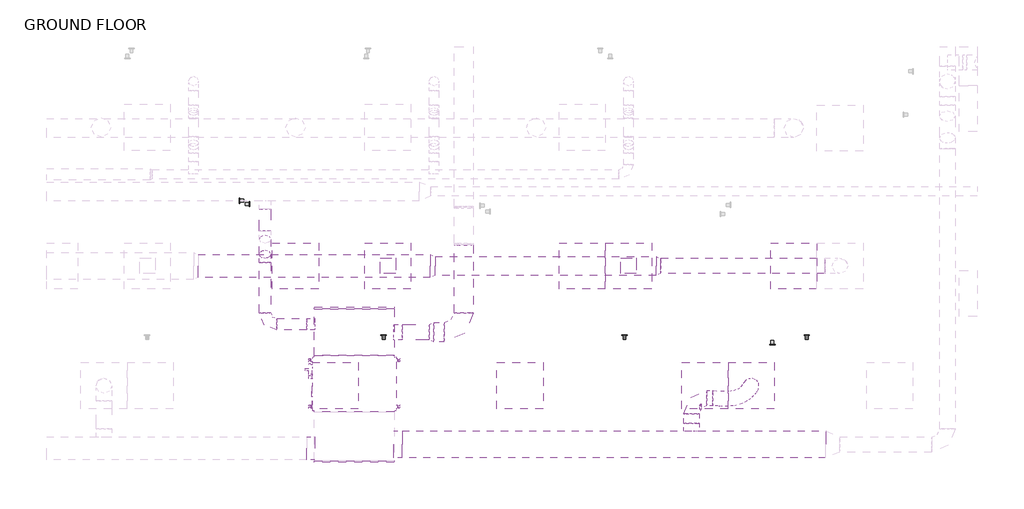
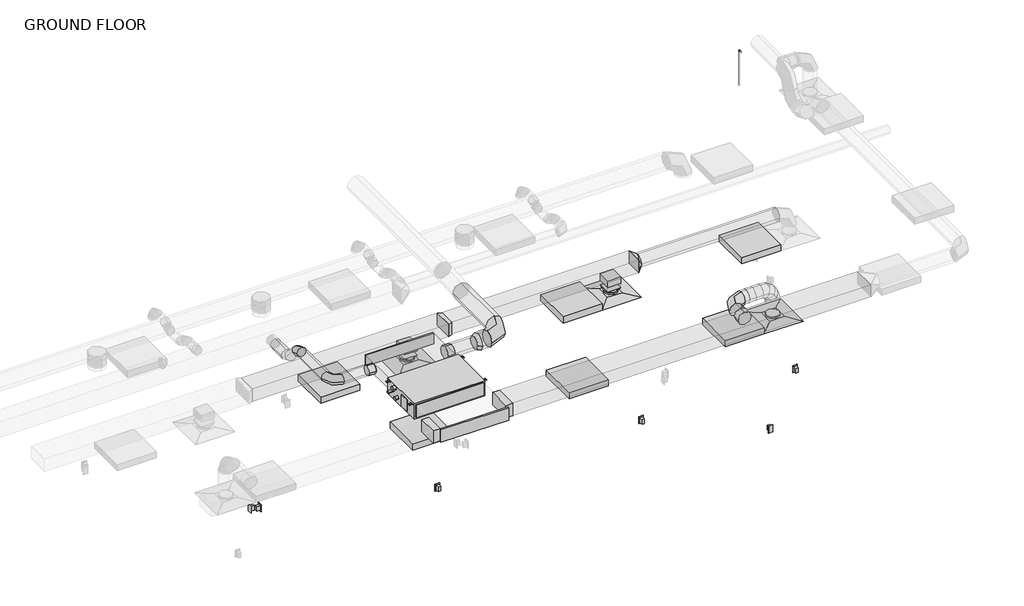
# One storey, part 4 of 20: 18 duct fittings, 17 duct segments, 6 light fixtures, 4 proxies, 3 air terminals, 3 switching devices, 2 pipe segments, 1 pipe fitting.
"""IFC4 building model written with IfcOpenShell, lengths in millimetres."""

from ifc_helpers import new_model, si_unit, point, frame, frame_2d, origin, place, context, project, spatial, polyline, circle_curve, ellipse_curve, trimmed, segment, composite_curve, outline, extrude, transform, mapped, element, save
from ifc_brep_helpers import plane_surface, cylinder_surface, advanced_brep
from components import air_terminal_e9020785, mechanical_equipment_d42a0ae8, duplex_receptacle_countertop_10251bba, rectangular_endcap_standard_76476d20, rectangular_endcap_standard_db7dad01, rectangular_takeoff_standard_806da19c, rectangular_takeoff_standard_78a7ba75, rectangular_takeoff_standard_d07ea574, rectangular_transition_angle_45_degree_1d311e81, rectangular_to_round_transition_angle_45_degree_e9430680, rectangular_to_round_transition_angle_45_degree_5a025447, round_elbow_1_d_a253342a, round_elbow_1_d_b37ad80b, round_elbow_1_d_6fec3262, round_elbow_1_d_9a27e954, round_takeoff_standard_d3b0d0f9, round_takeoff_standard_1127d77f, round_takeoff_standard_bb6ed057, round_transition_angle_45_degree_6c335ea7, troffer_corner_insert_2x2_3lamp_e67c7f8f, elbow_generic_standard_a088f956

model = new_model("IFC4")

# Units and contexts
model_context = context("Model", 3, world=origin())
ifc_project = project(units=[si_unit("LENGTHUNIT", "METRE", prefix="MILLI")], contexts=[model_context])

# Site, building, storey
site = spatial("IfcSite", under=ifc_project)
building = spatial("IfcBuilding", under=site)
storey = spatial("IfcBuildingStorey", under=building, Name="GROUND FLOOR", Elevation=30480.0)

# Air terminals
placement = place(None, origin())
air_terminal_shape = air_terminal_e9020785(model_context)
element("IfcAirTerminal", 1, ObjectType="Supply Diffuser - Rectangular Face Round Neck - Hosted : 24\"x24\" Face 8\" Neck - Hosted", at=placement, inside=storey, context=model_context, shape_type="MappedRepresentation", body=[
    mapped(air_terminal_shape, transform((2372.6795393, -4228.1054995, 33223.2), x_axis=(0.0, -1.0, 0.0), y_axis=(-1.0, 0.0, 0.0), z_axis=(0.0, 0.0, -1.0))),
])
element("IfcAirTerminal", 2, ObjectType="Supply Diffuser - Rectangular Face Round Neck - Hosted : 24\"x24\" Face 8\" Neck - Hosted", at=placement, inside=storey, context=model_context, shape_type="MappedRepresentation", body=[
    mapped(air_terminal_shape, transform((5547.6681472, -4228.1054995, 33223.2), x_axis=(0.0, -1.0, 0.0), y_axis=(-1.0, 0.0, 0.0), z_axis=(0.0, 0.0, -1.0))),
])
element("IfcAirTerminal", 3, ObjectType="Supply Diffuser - Rectangular Face Round Neck - Hosted : 24\"x24\" Face 8\" Neck - Hosted", at=placement, inside=storey, context=model_context, shape_type="MappedRepresentation", body=[
    mapped(air_terminal_shape, transform((7163.7545393, -5809.2554995, 33223.2), x_axis=(0.0, -1.0, 0.0), y_axis=(-1.0, 0.0, 0.0), z_axis=(0.0, 0.0, -1.0))),
])

# Proxies
mechanical_equipment_shape = mechanical_equipment_d42a0ae8(model_context)
element("IfcBuildingElementProxy", 4, Name="PEFY-P-NMAU-E_Medium_Static_Ducted : PEFY-P30NMAU-E", ObjectType="PEFY-P-NMAU-E_Medium_Static_Ducted : PEFY-P30NMAU-E", at=placement, inside=storey, context=model_context, shape_type="MappedRepresentation", body=[
    mapped(mechanical_equipment_shape, transform((1920.9522105, -5724.0600038, 33731.2), x_axis=(-1.0, 0.0, 0.0), y_axis=(0.0, -1.0, 0.0), z_axis=(0.0, 0.0, 1.0))),
])
duplex_receptacle_countertop_shape = duplex_receptacle_countertop_10251bba(model_context)
element("IfcBuildingElementProxy", 5, Name="Duplex Receptacle : Standard", ObjectType="Duplex Receptacle : Standard", at=placement, inside=storey, context=model_context, shape_type="MappedRepresentation", body=[
    mapped(duplex_receptacle_countertop_shape, transform((420.0545393, -3366.5857363, 30937.2), x_axis=(0.0, -1.0, 0.0), y_axis=(0.0, 0.0, 1.0), z_axis=(-1.0, 0.0, 0.0))),
])
element("IfcBuildingElementProxy", 6, Name="Duplex Receptacle : Standard", ObjectType="Duplex Receptacle : Standard", at=placement, inside=storey, context=model_context, shape_type="MappedRepresentation", body=[
    mapped(duplex_receptacle_countertop_shape, transform((543.8795393, -3410.6637519, 30937.2), x_axis=(0.0, 1.0, 0.0), y_axis=(0.0, 0.0, 1.0), z_axis=(1.0, 0.0, 0.0))),
])
element("IfcBuildingElementProxy", 7, Name="Duplex Receptacle : Standard", ObjectType="Duplex Receptacle : Standard", at=placement, inside=storey, context=model_context, shape_type="MappedRepresentation", body=[
    mapped(duplex_receptacle_countertop_shape, transform((7444.6976826, -5266.3304995, 30937.2), x_axis=(1.0, 0.0, 0.0), y_axis=(0.0, 0.0, 1.0), z_axis=(0.0, -1.0, 0.0))),
])

# Duct fittings
rectangular_endcap_standard_shape = rectangular_endcap_standard_76476d20(model_context)
element("IfcDuctFitting", 8, ObjectType="Rectangular Endcap : Standard", at=placement, inside=storey, context=model_context, shape_type="MappedRepresentation", body=[
    mapped(rectangular_endcap_standard_shape, transform((1930.9644534, -4796.9600038, 33890.74375), x_axis=(0.0, 1.0, 0.0), y_axis=(-1.0, 0.0, 0.0), z_axis=(0.0, 0.0, 1.0))),
])
rectangular_endcap_standard_2_shape = rectangular_endcap_standard_db7dad01(model_context)
element("IfcDuctFitting", 9, ObjectType="Rectangular Endcap : Standard", at=placement, inside=storey, context=model_context, shape_type="MappedRepresentation", body=[
    mapped(rectangular_endcap_standard_2_shape, transform((1930.9644534, -6797.459162, 33877.25), x_axis=(0.0, -1.0, 0.0), y_axis=(0.0, 0.0, -1.0000000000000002), z_axis=(1.0000000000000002, 0.0, 0.0))),
])
rectangular_takeoff_standard_shape = rectangular_takeoff_standard_806da19c(model_context)
element("IfcDuctFitting", 10, ObjectType="Rectangular Takeoff : Standard", at=placement, inside=storey, context=model_context, shape_type="MappedRepresentation", body=[
    mapped(rectangular_takeoff_standard_shape, transform((2458.8082034, -6584.4850038, 33877.25), x_axis=(1.0, 0.0, 0.0), y_axis=(0.0, -1.0, 0.0), z_axis=(0.0, 0.0, -1.0))),
])
rectangular_takeoff_standard_2_shape = rectangular_takeoff_standard_78a7ba75(model_context)
element("IfcDuctFitting", 11, ObjectType="Rectangular Takeoff : Standard", at=placement, inside=storey, context=model_context, shape_type="MappedRepresentation", body=[
    mapped(rectangular_takeoff_standard_2_shape, transform((1403.1207034, -6635.2850038, 33877.25), x_axis=(-1.0, 0.0, 0.0), y_axis=(0.0, 1.0, 0.0), z_axis=(0.0, 0.0, -1.0))),
])
rectangular_takeoff_standard_3_shape = rectangular_takeoff_standard_d07ea574(model_context)
element("IfcDuctFitting", 12, ObjectType="Rectangular Takeoff : Standard", at=placement, inside=storey, context=model_context, shape_type="MappedRepresentation", body=[
    mapped(rectangular_takeoff_standard_3_shape, transform((5547.6681472, -4228.1054995, 33502.6), x_axis=(0.0, 0.0, -1.0), y_axis=(1.0, 0.0, 0.0), z_axis=(0.0, -1.0, 0.0))),
])
element("IfcDuctFitting", 13, ObjectType="Rectangular Takeoff : Standard", at=placement, inside=storey, context=model_context, shape_type="MappedRepresentation", body=[
    mapped(rectangular_takeoff_standard_3_shape, transform((2372.6795393, -4228.1054995, 33502.6), x_axis=(0.0, 0.0, -1.0), y_axis=(1.0, 0.0, 0.0), z_axis=(0.0, -1.0, 0.0))),
])
rectangular_transition_angle_45_degree_shape = rectangular_transition_angle_45_degree_1d311e81(model_context)
element("IfcDuctFitting", 14, ObjectType="Rectangular Transition - Angle : 45 Degree", at=placement, inside=storey, context=model_context, shape_type="MappedRepresentation", body=[
    mapped(rectangular_transition_angle_45_degree_shape, transform((2934.6545393, -4228.1054995, 33604.2), x_axis=(1.0, 0.0, 0.0), y_axis=(0.0, 1.0, 0.0), z_axis=(0.0, 0.0, 1.0))),
])
rectangular_to_round_transition_angle_45_degree_shape = rectangular_to_round_transition_angle_45_degree_e9430680(model_context)
element("IfcDuctFitting", 15, ObjectType="Rectangular to Round Transition - Angle : 45 Degree", at=placement, inside=storey, context=model_context, shape_type="MappedRepresentation", body=[
    mapped(rectangular_to_round_transition_angle_45_degree_shape, transform((5910.8124903, -4228.1054995, 33604.2), x_axis=(1.0, 0.0, 0.0), y_axis=(0.0, 1.0, 0.0), z_axis=(0.0, 0.0, 1.0))),
])
rectangular_to_round_transition_angle_45_degree_2_shape = rectangular_to_round_transition_angle_45_degree_5a025447(model_context)
element("IfcDuctFitting", 16, ObjectType="Rectangular to Round Transition - Angle : 45 Degree", at=placement, inside=storey, context=model_context, shape_type="MappedRepresentation", body=[
    mapped(rectangular_to_round_transition_angle_45_degree_2_shape, transform((5547.6681472, -4228.1054995, 33327.975), x_axis=(0.0, 0.0, -1.0), y_axis=(1.0, 0.0, 0.0), z_axis=(0.0, -1.0, 0.0))),
])
element("IfcDuctFitting", 17, ObjectType="Rectangular to Round Transition - Angle : 45 Degree", at=placement, inside=storey, context=model_context, shape_type="MappedRepresentation", body=[
    mapped(rectangular_to_round_transition_angle_45_degree_2_shape, transform((2372.6795393, -4228.1054995, 33327.975), x_axis=(0.0, 0.0, -1.0), y_axis=(1.0, 0.0, 0.0), z_axis=(0.0, -1.0, 0.0))),
])
round_elbow_1_d_shape = round_elbow_1_d_a253342a(model_context)
element("IfcDuctFitting", 18, ObjectType="Round Elbow : 1 D", at=placement, inside=storey, context=model_context, shape_type="MappedRepresentation", body=[
    mapped(round_elbow_1_d_shape, transform((6377.6154749, -5974.8850038, 33832.8), x_axis=(-1.0, 0.0, 0.0), y_axis=(0.0, -1.0, 0.0), z_axis=(0.0, 0.0, 1.0))),
])
round_elbow_1_d_2_shape = round_elbow_1_d_b37ad80b(model_context)
element("IfcDuctFitting", 19, ObjectType="Round Elbow : 1 D", at=placement, inside=storey, context=model_context, shape_type="MappedRepresentation", body=[
    mapped(round_elbow_1_d_2_shape, transform((752.8182219, -4998.2216457, 33890.74375), x_axis=(0.0, -1.0, 0.0), y_axis=(1.0, 0.0, 0.0), z_axis=(0.0, 0.0, 1.0))),
])
round_elbow_1_d_3_shape = round_elbow_1_d_6fec3262(model_context)
element("IfcDuctFitting", 20, ObjectType="Round Elbow : 1 D", at=placement, inside=storey, context=model_context, shape_type="MappedRepresentation", body=[
    mapped(round_elbow_1_d_3_shape, transform((3373.2082034, -5101.7600038, 33846.29375), x_axis=(1.0, 0.0, 0.0), y_axis=(0.0, 1.0, 0.0), z_axis=(0.0, 0.0, 1.0))),
])
round_elbow_1_d_4_shape = round_elbow_1_d_9a27e954(model_context)
element("IfcDuctFitting", 21, ObjectType="Round Elbow : 1 D", at=placement, inside=storey, context=model_context, shape_type="MappedRepresentation", body=[
    mapped(round_elbow_1_d_4_shape, transform((752.8182219, -4118.4511555, 33890.74375), x_axis=(0.0, -0.707106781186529, 0.707106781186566), y_axis=(0.0, -0.707106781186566, -0.707106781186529), z_axis=(1.0, 0.0, 0.0))),
])
round_takeoff_standard_shape = round_takeoff_standard_d3b0d0f9(model_context)
element("IfcDuctFitting", 22, ObjectType="Round Takeoff : Standard", at=placement, inside=storey, context=model_context, shape_type="MappedRepresentation", body=[
    mapped(round_takeoff_standard_shape, transform((2458.8082034, -5101.7600038, 33846.29375), x_axis=(1.0, 0.0, 0.0), y_axis=(0.0, -1.0, 0.0), z_axis=(0.0, 0.0, -1.0))),
])
round_takeoff_standard_2_shape = round_takeoff_standard_1127d77f(model_context)
element("IfcDuctFitting", 23, ObjectType="Round Takeoff : Standard", at=placement, inside=storey, context=model_context, shape_type="MappedRepresentation", body=[
    mapped(round_takeoff_standard_2_shape, transform((6377.6154749, -6406.6850038, 33832.8), x_axis=(0.0, 1.0, 0.0), y_axis=(1.0, 0.0, 0.0), z_axis=(0.0, 0.0, -1.0))),
])
round_takeoff_standard_3_shape = round_takeoff_standard_bb6ed057(model_context)
element("IfcDuctFitting", 24, ObjectType="Round Takeoff : Standard", at=placement, inside=storey, context=model_context, shape_type="MappedRepresentation", body=[
    mapped(round_takeoff_standard_3_shape, transform((1403.1207034, -4998.2216457, 33890.74375), x_axis=(-1.0, 0.0, 0.0), y_axis=(0.0, 1.0, 0.0), z_axis=(0.0, 0.0, -1.0))),
])
round_transition_angle_45_degree_shape = round_transition_angle_45_degree_6c335ea7(model_context)
element("IfcDuctFitting", 25, ObjectType="Round Transition - Angle : 45 Degree", at=placement, inside=storey, context=model_context, shape_type="MappedRepresentation", body=[
    mapped(round_transition_angle_45_degree_shape, transform((2916.0082034, -5101.7600038, 33846.29375), x_axis=(1.0, 0.0, 0.0), y_axis=(0.0, 1.0, 0.0), z_axis=(0.0, 0.0, 1.0))),
])

# Duct segments
element("IfcDuctSegment", 26, ObjectType="Flex - Round", at=placement, inside=storey, context=model_context, shape_type="AdvancedBrep", body=[
    advanced_brep(
    [(6657.0154749, -5873.2850038, 33832.8), (6657.0154749, -5974.8850038, 33731.2), (6657.0154749, -6076.4850038, 33832.8), (6657.0154749, -5974.8850038, 33934.4), (6664.1604734, -5873.2850038, 33832.8), (6665.7378942, -5974.8850038, 33731.2), (6661.2728618, -6076.4850038, 33832.8), (6659.6954409, -5974.8850038, 33934.4), (7129.0124065, -5713.7801403, 33277.175), (7259.2298985, -5774.5133667, 33277.175), (7198.4966721, -5904.7308586, 33277.175), (7068.2791801, -5843.9976323, 33277.175), (6761.7393941, -5876.0613465, 33838.6096182), (6764.2748739, -5977.6886054, 33737.0666588), (6757.0979688, -6079.2114465, 33838.5052003), (6754.5624889, -5977.5841875, 33940.0481597), (6856.6277847, -5877.7028295, 33842.044493), (6852.1190413, -5979.2082298, 33740.246539), (6864.8566466, -6081.0755738, 33842.405968), (6869.3653901, -5979.5701735, 33944.203922), (6931.5454276, -5870.2568398, 33826.4432762), (6909.7778917, -5973.4775742, 33728.2393776), (6969.4566581, -6070.6794831, 33820.6235494), (6991.2241939, -5967.4587487, 33918.8274479), (6991.5818588, -5850.531499, 33783.6357716), (6953.2151869, -5959.2059823, 33697.2674799), (7053.4419158, -6043.0856073, 33760.7399215), (7091.8085877, -5934.411124, 33847.1082133), (7042.2601994, -5820.1278131, 33712.3335862), (6994.1395219, -5934.654061, 33639.6887492), (7113.2263536, -6007.2188593, 33676.6258598), (7161.3470311, -5892.6926114, 33749.2706968), (7081.4386198, -5784.4954246, 33618.3222411), (7027.690537, -5904.1397424, 33559.1807545), (7154.2398269, -5969.9175083, 33578.2111776), (7207.9879096, -5850.2731906, 33637.3526642), (7108.4914029, -5750.2738045, 33509.6614918), (7051.0725508, -5874.561625, 33465.2640908), (7180.3960787, -5936.8299952, 33473.1514537), (7237.8149309, -5812.5421747, 33517.5488548), (7124.0629565, -5724.2123836, 33393.9600667), (7064.2109738, -5852.5724273, 33367.6415734), (7194.3387271, -5913.4948009, 33369.5532945), (7254.1907099, -5785.1347572, 33395.8717878), (7129.0124065, -5713.7801403, 33291.4495769), (7068.2791801, -5843.9976323, 33283.3829523), (7198.4966721, -5904.7308586, 33283.4360529), (7259.2298985, -5774.5133667, 33291.5026776)],
    [
        (0, 1, circle_curve(frame((6657.0154749, -5974.8850038, 33832.8), z_axis=(-1.0, 0.0, 0.0), x_axis=(0.0, 1.0, 0.0)), 101.6)),
        (1, 2, circle_curve(frame((6657.0154749, -5974.8850038, 33832.8), z_axis=(-1.0, 0.0, 0.0), x_axis=(0.0, 1.0, 0.0)), 101.6)),
        (2, 3, circle_curve(frame((6657.0154749, -5974.8850038, 33832.8), z_axis=(-1.0, 0.0, 0.0), x_axis=(0.0, 1.0, 0.0)), 101.6)),
        (3, 0, circle_curve(frame((6657.0154749, -5974.8850038, 33832.8), z_axis=(-1.0, 0.0, 0.0), x_axis=(0.0, 1.0, 0.0)), 101.6)),
        (0, 4),
        (4, 5, ellipse_curve(frame((6662.7166676, -5974.8850038, 33832.8), z_axis=(-0.9994573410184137, 0.014202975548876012, -0.02972034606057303), x_axis=(-0.032939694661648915, -0.43094716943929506, 0.9017757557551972)), 101.6551641, 101.6)),
        (5, 1),
        (5, 6, ellipse_curve(frame((6662.7166676, -5974.8850038, 33832.8), z_axis=(-0.9994573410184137, 0.014202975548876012, -0.02972034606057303), x_axis=(-0.032939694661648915, -0.43094716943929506, 0.9017757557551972)), 101.6551641, 101.6)),
        (6, 2),
        (6, 7, ellipse_curve(frame((6662.7166676, -5974.8850038, 33832.8), z_axis=(-0.9994573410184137, 0.014202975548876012, -0.02972034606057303), x_axis=(-0.032939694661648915, -0.43094716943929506, 0.9017757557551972)), 101.6551641, 101.6)),
        (7, 3),
        (7, 4, ellipse_curve(frame((6662.7166676, -5974.8850038, 33832.8), z_axis=(-0.9994573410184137, 0.014202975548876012, -0.02972034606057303), x_axis=(-0.032939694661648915, -0.43094716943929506, 0.9017757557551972)), 101.6551641, 101.6)),
        (8, 9, circle_curve(frame((7163.7545393, -5809.2554995, 33277.175), z_axis=(0.0, 0.0, -1.0), x_axis=(-0.3419501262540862, 0.9397181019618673, 0.0)), 101.6)),
        (9, 10, circle_curve(frame((7163.7545393, -5809.2554995, 33277.175), z_axis=(0.0, 0.0, -1.0), x_axis=(-0.3419501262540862, 0.9397181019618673, 0.0)), 101.6)),
        (10, 11, circle_curve(frame((7163.7545393, -5809.2554995, 33277.175), z_axis=(0.0, 0.0, -1.0), x_axis=(-0.3419501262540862, 0.9397181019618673, 0.0)), 101.6)),
        (11, 8, circle_curve(frame((7163.7545393, -5809.2554995, 33277.175), z_axis=(0.0, 0.0, -1.0), x_axis=(-0.3419501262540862, 0.9397181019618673, 0.0)), 101.6)),
        (4, 12),
        (12, 13, ellipse_curve(frame((6759.4186814, -5977.6363965, 33838.5574093), z_axis=(-0.9985960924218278, 0.02283976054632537, -0.04779319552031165), x_axis=(0.05297021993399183, 0.43057581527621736, -0.9009986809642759)), 101.6084493, 101.6)),
        (13, 5),
        (13, 14, ellipse_curve(frame((6759.4186814, -5977.6363965, 33838.5574093), z_axis=(-0.9985960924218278, 0.02283976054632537, -0.04779319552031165), x_axis=(0.05297021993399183, 0.43057581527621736, -0.9009986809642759)), 101.6084493, 101.6)),
        (14, 6),
        (14, 15, ellipse_curve(frame((6759.4186814, -5977.6363965, 33838.5574093), z_axis=(-0.9985960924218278, 0.02283976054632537, -0.04779319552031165), x_axis=(0.05297021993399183, 0.43057581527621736, -0.9009986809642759)), 101.6084493, 101.6)),
        (15, 7),
        (15, 12, ellipse_curve(frame((6759.4186814, -5977.6363965, 33838.5574093), z_axis=(-0.9985960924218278, 0.02283976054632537, -0.04779319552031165), x_axis=(0.05297021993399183, 0.43057581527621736, -0.9009986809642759)), 101.6084493, 101.6)),
        (12, 16),
        (16, 17, ellipse_curve(frame((6860.7422157, -5979.3892016, 33842.2252305), z_axis=(-0.9956470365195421, -0.04013632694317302, 0.0841192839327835), x_axis=(-0.09320396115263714, 0.42892086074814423, -0.8985209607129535)), 102.5112915, 101.6)),
        (17, 13),
        (17, 18, ellipse_curve(frame((6860.7422157, -5979.3892016, 33842.2252305), z_axis=(-0.9956470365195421, -0.04013632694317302, 0.0841192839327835), x_axis=(-0.09320396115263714, 0.42892086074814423, -0.8985209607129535)), 102.5112915, 101.6)),
        (18, 14),
        (18, 19, ellipse_curve(frame((6860.7422157, -5979.3892016, 33842.2252305), z_axis=(-0.9956470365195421, -0.04013632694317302, 0.0841192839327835), x_axis=(-0.09320396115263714, 0.42892086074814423, -0.8985209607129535)), 102.5112915, 101.6)),
        (19, 15),
        (19, 16, ellipse_curve(frame((6860.7422157, -5979.3892016, 33842.2252305), z_axis=(-0.9956470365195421, -0.04013632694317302, 0.0841192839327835), x_axis=(-0.09320396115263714, 0.42892086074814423, -0.8985209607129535)), 102.5112915, 101.6)),
        (16, 20),
        (20, 21, ellipse_curve(frame((6950.5010428, -5970.4681614, 33823.5334128), z_axis=(-0.9021059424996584, -0.1820001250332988, 0.39125544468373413), x_axis=(-0.431492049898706, 0.37118796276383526, -0.8222129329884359)), 104.0957078, 101.6)),
        (21, 17),
        (21, 22, ellipse_curve(frame((6950.5010428, -5970.4681614, 33823.5334128), z_axis=(-0.9021059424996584, -0.1820001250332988, 0.39125544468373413), x_axis=(-0.431492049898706, 0.37118796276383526, -0.8222129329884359)), 104.0957078, 101.6)),
        (22, 18),
        (22, 23, ellipse_curve(frame((6950.5010428, -5970.4681614, 33823.5334128), z_axis=(-0.9021059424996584, -0.1820001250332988, 0.39125544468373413), x_axis=(-0.431492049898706, 0.37118796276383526, -0.8222129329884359)), 104.0957078, 101.6)),
        (23, 19),
        (23, 20, ellipse_curve(frame((6950.5010428, -5970.4681614, 33823.5334128), z_axis=(-0.9021059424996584, -0.1820001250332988, 0.39125544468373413), x_axis=(-0.431492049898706, 0.37118796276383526, -0.8222129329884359)), 104.0957078, 101.6)),
        (20, 24),
        (24, 25, ellipse_curve(frame((7022.5118873, -5946.8085531, 33772.1878466), z_axis=(-0.6758957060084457, -0.297324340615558, 0.6743613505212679), x_axis=(-0.7355448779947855, 0.21472022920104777, -0.6425487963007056)), 102.9719529, 101.6)),
        (25, 21),
        (25, 26, ellipse_curve(frame((7022.5118873, -5946.8085531, 33772.1878466), z_axis=(-0.6758957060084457, -0.297324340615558, 0.6743613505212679), x_axis=(-0.7355448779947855, 0.21472022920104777, -0.6425487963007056)), 102.9719529, 101.6)),
        (26, 22),
        (26, 27, ellipse_curve(frame((7022.5118873, -5946.8085531, 33772.1878466), z_axis=(-0.6758957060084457, -0.297324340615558, 0.6743613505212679), x_axis=(-0.7355448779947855, 0.21472022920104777, -0.6425487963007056)), 102.9719529, 101.6)),
        (27, 23),
        (27, 24, ellipse_curve(frame((7022.5118873, -5946.8085531, 33772.1878466), z_axis=(-0.6758957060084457, -0.297324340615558, 0.6743613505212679), x_axis=(-0.7355448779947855, 0.21472022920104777, -0.6425487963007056)), 102.9719529, 101.6)),
        (24, 28),
        (28, 29, ellipse_curve(frame((7077.7432765, -5913.6733362, 33694.479723), z_axis=(-0.457692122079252, -0.3310971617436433, 0.8251621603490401), x_axis=(-0.8760103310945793, 0.009199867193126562, -0.48220458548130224)), 102.1657648, 101.6)),
        (29, 25),
        (29, 30, ellipse_curve(frame((7077.7432765, -5913.6733362, 33694.479723), z_axis=(-0.457692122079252, -0.3310971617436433, 0.8251621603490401), x_axis=(-0.8760103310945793, 0.009199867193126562, -0.48220458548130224)), 102.1657648, 101.6)),
        (30, 26),
        (30, 31, ellipse_curve(frame((7077.7432765, -5913.6733362, 33694.479723), z_axis=(-0.457692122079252, -0.3310971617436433, 0.8251621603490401), x_axis=(-0.8760103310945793, 0.009199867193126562, -0.48220458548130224)), 102.1657648, 101.6)),
        (31, 27),
        (31, 28, ellipse_curve(frame((7077.7432765, -5913.6733362, 33694.479723), z_axis=(-0.457692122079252, -0.3310971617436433, 0.8251621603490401), x_axis=(-0.8760103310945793, 0.009199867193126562, -0.48220458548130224)), 102.1657648, 101.6)),
        (28, 32),
        (32, 33, ellipse_curve(frame((7117.8392233, -5877.2064665, 33598.2667093), z_axis=(-0.2978920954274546, -0.31211207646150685, 0.9021343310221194), x_axis=(-0.8883127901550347, -0.2553802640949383, -0.3816822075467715)), 101.881816, 101.6)),
        (33, 29),
        (33, 34, ellipse_curve(frame((7117.8392233, -5877.2064665, 33598.2667093), z_axis=(-0.2978920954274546, -0.31211207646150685, 0.9021343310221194), x_axis=(-0.8883127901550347, -0.2553802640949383, -0.3816822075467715)), 101.881816, 101.6)),
        (34, 30),
        (34, 35, ellipse_curve(frame((7117.8392233, -5877.2064665, 33598.2667093), z_axis=(-0.2978920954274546, -0.31211207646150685, 0.9021343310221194), x_axis=(-0.8883127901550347, -0.2553802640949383, -0.3816822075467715)), 101.881816, 101.6)),
        (35, 31),
        (35, 32, ellipse_curve(frame((7117.8392233, -5877.2064665, 33598.2667093), z_axis=(-0.2978920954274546, -0.31211207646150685, 0.9021343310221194), x_axis=(-0.8883127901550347, -0.2553802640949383, -0.3816822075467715)), 101.881816, 101.6)),
        (32, 36),
        (36, 37, ellipse_curve(frame((7144.4437408, -5843.5518998, 33491.4064728), z_axis=(-0.18100034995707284, -0.25562117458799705, 0.9496824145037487), x_axis=(-0.7679988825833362, -0.5664544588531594, -0.2988428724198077)), 101.8197707, 101.6)),
        (37, 33),
        (37, 38, ellipse_curve(frame((7144.4437408, -5843.5518998, 33491.4064728), z_axis=(-0.18100034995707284, -0.25562117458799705, 0.9496824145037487), x_axis=(-0.7679988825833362, -0.5664544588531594, -0.2988428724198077)), 101.8197707, 101.6)),
        (38, 34),
        (38, 39, ellipse_curve(frame((7144.4437408, -5843.5518998, 33491.4064728), z_axis=(-0.18100034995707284, -0.25562117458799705, 0.9496824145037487), x_axis=(-0.7679988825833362, -0.5664544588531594, -0.2988428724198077)), 101.8197707, 101.6)),
        (39, 35),
        (39, 36, ellipse_curve(frame((7144.4437408, -5843.5518998, 33491.4064728), z_axis=(-0.18100034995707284, -0.25562117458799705, 0.9496824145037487), x_axis=(-0.7679988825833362, -0.5664544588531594, -0.2988428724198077)), 101.8197707, 101.6)),
        (36, 40),
        (40, 41, ellipse_curve(frame((7159.2008418, -5818.8535922, 33381.7566806), z_axis=(-0.08931381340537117, -0.15992202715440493, 0.9830808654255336), x_axis=(-0.5660673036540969, -0.803969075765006, -0.18221287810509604)), 101.8688525, 101.6)),
        (41, 37),
        (41, 42, ellipse_curve(frame((7159.2008418, -5818.8535922, 33381.7566806), z_axis=(-0.08931381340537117, -0.15992202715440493, 0.9830808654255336), x_axis=(-0.5660673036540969, -0.803969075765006, -0.18221287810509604)), 101.8688525, 101.6)),
        (42, 38),
        (42, 43, ellipse_curve(frame((7159.2008418, -5818.8535922, 33381.7566806), z_axis=(-0.08931381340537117, -0.15992202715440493, 0.9830808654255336), x_axis=(-0.5660673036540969, -0.803969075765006, -0.18221287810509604)), 101.8688525, 101.6)),
        (43, 39),
        (43, 40, ellipse_curve(frame((7159.2008418, -5818.8535922, 33381.7566806), z_axis=(-0.08931381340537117, -0.15992202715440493, 0.9830808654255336), x_axis=(-0.5660673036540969, -0.803969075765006, -0.18221287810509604)), 101.8688525, 101.6)),
        (40, 44),
        (44, 45, ellipse_curve(frame((7163.7545393, -5809.2554995, 33287.4428149), z_axis=(-0.024027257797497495, -0.05064364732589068, 0.9984277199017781), x_axis=(-0.42796835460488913, -0.9020537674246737, -0.056054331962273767)), 101.7599952, 101.6)),
        (45, 41),
        (45, 46, ellipse_curve(frame((7163.7545393, -5809.2554995, 33287.4428149), z_axis=(-0.024027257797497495, -0.05064364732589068, 0.9984277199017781), x_axis=(-0.42796835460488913, -0.9020537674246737, -0.056054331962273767)), 101.7599952, 101.6)),
        (46, 42),
        (46, 47, ellipse_curve(frame((7163.7545393, -5809.2554995, 33287.4428149), z_axis=(-0.024027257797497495, -0.05064364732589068, 0.9984277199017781), x_axis=(-0.42796835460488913, -0.9020537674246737, -0.056054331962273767)), 101.7599952, 101.6)),
        (47, 43),
        (47, 44, ellipse_curve(frame((7163.7545393, -5809.2554995, 33287.4428149), z_axis=(-0.024027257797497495, -0.05064364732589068, 0.9984277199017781), x_axis=(-0.42796835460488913, -0.9020537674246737, -0.056054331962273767)), 101.7599952, 101.6)),
        (44, 8),
        (11, 45),
        (10, 46),
        (9, 47),
    ],
    [
        plane_surface(frame((6657.0154749, -5974.8850038, 33731.2), z_axis=(-1.0, 0.0, 0.0), x_axis=(0.0, 1.0, 0.0))),
        cylinder_surface(frame((6657.0154749, -5974.8850038, 33832.8), z_axis=(-1.0, 0.0, 0.0), x_axis=(0.0, 1.0, 0.0)), 101.6),
        plane_surface(frame((7163.7545393, -5910.8554995, 33277.175), z_axis=(0.0, 0.0, -1.0), x_axis=(-1.0, 0.0, 0.0))),
        cylinder_surface(frame((6662.7166676, -5974.8850038, 33832.8), z_axis=(-0.9978299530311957, 0.02839053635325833, -0.05940843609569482), x_axis=(0.028390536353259, 0.9995965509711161, 0.0008442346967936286)), 101.6),
        cylinder_surface(frame((6759.4186814, -5977.6363965, 33838.5574093), z_axis=(-0.9991961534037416, 0.017285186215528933, -0.03617000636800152), x_axis=(0.0172851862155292, 0.9998505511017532, 0.00031272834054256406)), 101.6),
        cylinder_surface(frame((6860.7422157, -5979.3892016, 33842.2252305), z_axis=(-0.974395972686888, -0.0968442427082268, 0.2029129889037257), x_axis=(-0.09684377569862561, 0.9952498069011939, 0.00995514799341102)), 101.6),
        cylinder_surface(frame((6950.5010428, -5970.4681614, 33823.5334128), z_axis=(-0.7865597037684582, -0.25842905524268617, 0.5608371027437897), x_axis=(-0.25900135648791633, 0.9625344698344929, 0.08028506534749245)), 101.6),
        cylinder_surface(frame((7022.5118873, -5946.8085531, 33772.1878466), z_axis=(-0.5472210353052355, -0.328296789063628, 0.7699158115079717), x_axis=(-0.3360343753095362, 0.9286478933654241, 0.15714321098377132)), 101.6),
        cylinder_surface(frame((7077.7432765, -5913.6733362, 33694.479723), z_axis=(-0.3630940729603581, -0.33023049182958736, 0.8712694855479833), x_axis=(-0.35800704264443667, 0.9127527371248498, 0.1967572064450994)), 101.6),
        cylinder_surface(frame((7117.8392233, -5877.2064665, 33598.2667093), z_axis=(-0.23104211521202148, -0.29226699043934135, 0.9280083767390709), x_axis=(-0.3584433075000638, 0.9122956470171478, 0.19807838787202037)), 101.6),
        cylinder_surface(frame((7144.4437408, -5843.5518998, 33491.4064728), z_axis=(-0.13017723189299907, -0.21787187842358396, 0.9672568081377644), x_axis=(-0.35128009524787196, 0.9224120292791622, 0.16049405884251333)), 101.6),
        cylinder_surface(frame((7159.2008418, -5818.8535922, 33381.7566806), z_axis=(-0.047978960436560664, -0.10112804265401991, 0.993715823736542), x_axis=(-0.3438422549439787, 0.935729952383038, 0.07862544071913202)), 101.6),
        cylinder_surface(frame((7163.7545393, -5809.2554995, 33287.4428149), z_axis=(0.0, 0.0, 1.0), x_axis=(-0.3419501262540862, 0.9397181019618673, 0.0)), 101.6),
    ],
    [
        (0, [[1, 2, 3, 4]]),
        (1, [[-1, 5, 6, 7]]),
        (1, [[-2, -7, 8, 9]]),
        (1, [[-3, -9, 10, 11]]),
        (1, [[-4, -11, 12, -5]]),
        (2, [[13, 14, 15, 16]]),
        (3, [[-6, 17, 18, 19]]),
        (3, [[-8, -19, 20, 21]]),
        (3, [[-10, -21, 22, 23]]),
        (3, [[-12, -23, 24, -17]]),
        (4, [[-18, 25, 26, 27]]),
        (4, [[-20, -27, 28, 29]]),
        (4, [[-22, -29, 30, 31]]),
        (4, [[-24, -31, 32, -25]]),
        (5, [[-26, 33, 34, 35]]),
        (5, [[-28, -35, 36, 37]]),
        (5, [[-30, -37, 38, 39]]),
        (5, [[-32, -39, 40, -33]]),
        (6, [[-34, 41, 42, 43]]),
        (6, [[-36, -43, 44, 45]]),
        (6, [[-38, -45, 46, 47]]),
        (6, [[-40, -47, 48, -41]]),
        (7, [[-42, 49, 50, 51]]),
        (7, [[-44, -51, 52, 53]]),
        (7, [[-46, -53, 54, 55]]),
        (7, [[-48, -55, 56, -49]]),
        (8, [[-50, 57, 58, 59]]),
        (8, [[-52, -59, 60, 61]]),
        (8, [[-54, -61, 62, 63]]),
        (8, [[-56, -63, 64, -57]]),
        (9, [[-58, 65, 66, 67]]),
        (9, [[-60, -67, 68, 69]]),
        (9, [[-62, -69, 70, 71]]),
        (9, [[-64, -71, 72, -65]]),
        (10, [[-66, 73, 74, 75]]),
        (10, [[-68, -75, 76, 77]]),
        (10, [[-70, -77, 78, 79]]),
        (10, [[-72, -79, 80, -73]]),
        (11, [[-74, 81, 82, 83]]),
        (11, [[-76, -83, 84, 85]]),
        (11, [[-78, -85, 86, 87]]),
        (11, [[-80, -87, 88, -81]]),
        (12, [[-82, 89, -16, 90]]),
        (12, [[-84, -90, -15, 91]]),
        (12, [[-86, -91, -14, 92]]),
        (12, [[-88, -92, -13, -89]]),
    ],
),
])
element("IfcDuctSegment", 27, ObjectType="Mitered Elbows / Taps", at=placement, inside=storey, context=model_context, shape_type="SweptSolid", body=[
    extrude(outline(polyline([(8148.4082034, -6406.6850038), (8148.4082034, -6762.2850038), (2560.4082034, -6762.2850038), (2560.4082034, -6406.6850038), (8148.4082034, -6406.6850038)])), frame((0.0, 0.0, 33775.65), z_axis=(0.0, 0.0, 1.0), x_axis=(1.0, 0.0, 0.0)), (0.0, 0.0, 1.0), 203.2),
])
element("IfcDuctSegment", 28, ObjectType="Mitered Elbows / Taps", at=placement, inside=storey, context=model_context, shape_type="SweptSolid", body=[
    extrude(outline(polyline([(-128.2244362, -4380.5054995), (-128.2244362, -4075.7054995), (2934.6545393, -4075.7054995), (2934.6545393, -4380.5054995), (-128.2244362, -4380.5054995)])), frame((0.0, 0.0, 33502.6), z_axis=(0.0, 0.0, 1.0), x_axis=(1.0, 0.0, 0.0)), (0.0, 0.0, 1.0), 203.2),
])
element("IfcDuctSegment", 29, ObjectType="Mitered Elbows / Taps", at=placement, inside=storey, context=model_context, shape_type="SweptSolid", body=[
    extrude(outline(polyline([(2995.9755638, -4355.1054995), (2995.9755638, -4101.1054995), (5910.8124903, -4101.1054995), (5910.8124903, -4355.1054995), (2995.9755638, -4355.1054995)])), frame((0.0, 0.0, 33502.6), z_axis=(0.0, 0.0, 1.0), x_axis=(1.0, 0.0, 0.0)), (0.0, 0.0, 1.0), 203.2),
])
element("IfcDuctSegment", 30, ObjectType="Mitered Elbows / Taps", at=placement, inside=storey, context=model_context, shape_type="SweptSolid", body=[
    extrude(outline(polyline([(5649.2681472, -4329.7054995), (5446.0681472, -4329.7054995), (5446.0681472, -4126.5054995), (5649.2681472, -4126.5054995), (5649.2681472, -4329.7054995)])), frame((0.0, 0.0, 33327.975), z_axis=(0.0, 0.0, 1.0), x_axis=(1.0, 0.0, 0.0)), (0.0, 0.0, 1.0), 73.025),
])
element("IfcDuctSegment", 31, ObjectType="Mitered Elbows / Taps", at=placement, inside=storey, context=model_context, shape_type="SweptSolid", body=[
    extrude(outline(polyline([(2271.0795393, -4126.5054995), (2474.2795393, -4126.5054995), (2474.2795393, -4329.7054995), (2271.0795393, -4329.7054995), (2271.0795393, -4126.5054995)])), frame((0.0, 0.0, 33327.975), z_axis=(0.0, 0.0, 1.0), x_axis=(1.0, 0.0, 0.0)), (0.0, 0.0, 1.0), 73.025),
])
element("IfcDuctSegment", 32, ObjectType="Mitered Elbows / Tees", at=placement, inside=storey, context=model_context, shape_type="SweptSolid", body=[
    extrude(outline(polyline([(2458.8082034, -5406.5600038), (1403.1207034, -5406.5600038), (1403.1207034, -4796.9600038), (2458.8082034, -4796.9600038), (2458.8082034, -5406.5600038)])), frame((0.0, 0.0, 33801.05), z_axis=(0.0, 0.0, 1.0), x_axis=(1.0, 0.0, 0.0)), (0.0, 0.0, 1.0), 179.3875),
])
element("IfcDuctSegment", 33, ObjectType="Taps / Short Radius", at=placement, inside=storey, context=model_context, shape_type="SweptSolid", body=[
    extrude(outline(composite_curve([segment(trimmed(circle_curve(frame_2d((-4228.1054995, 33604.2)), 101.6), [point((-4126.5054995, 33604.2))], [point((-4228.1054995, 33502.6))], False, "CARTESIAN"), True, "CONTINUOUS"), segment(trimmed(circle_curve(frame_2d((-4228.1054995, 33604.2)), 101.6), [point((-4228.1054995, 33502.6))], [point((-4329.7054995, 33604.2))], False, "CARTESIAN"), True, "CONTINUOUS"), segment(trimmed(circle_curve(frame_2d((-4228.1054995, 33604.2)), 101.6), [point((-4329.7054995, 33604.2))], [point((-4228.1054995, 33705.8))], False, "CARTESIAN"), True, "CONTINUOUS"), segment(trimmed(circle_curve(frame_2d((-4228.1054995, 33604.2)), 101.6), [point((-4228.1054995, 33705.8))], [point((-4126.5054995, 33604.2))], False, "CARTESIAN"), True, "CONTINUOUS")], self_intersect=False)), frame((5972.1335148, 0.0, 0.0), z_axis=(1.0, 0.0, 0.0), x_axis=(0.0, 1.0, 0.0)), (0.0, 0.0, 1.0), 2159.9960245),
])
element("IfcDuctSegment", 34, ObjectType="Taps / Short Radius", at=placement, inside=storey, context=model_context, shape_type="SweptSolid", body=[
    extrude(outline(composite_curve([segment(trimmed(circle_curve(frame_2d((33832.8, 6377.6154749)), 101.6), [point((33832.8, 6479.2154749))], [point((33934.4, 6377.6154749))], False, "CARTESIAN"), True, "CONTINUOUS"), segment(trimmed(circle_curve(frame_2d((33832.8, 6377.6154749)), 101.6), [point((33934.4, 6377.6154749))], [point((33832.8, 6276.0154749))], False, "CARTESIAN"), True, "CONTINUOUS"), segment(trimmed(circle_curve(frame_2d((33832.8, 6377.6154749)), 101.6), [point((33832.8, 6276.0154749))], [point((33731.2, 6377.6154749))], False, "CARTESIAN"), True, "CONTINUOUS"), segment(trimmed(circle_curve(frame_2d((33832.8, 6377.6154749)), 101.6), [point((33731.2, 6377.6154749))], [point((33832.8, 6479.2154749))], False, "CARTESIAN"), True, "CONTINUOUS")], self_intersect=False)), frame((0.0, -6305.0850038, 0.0), z_axis=(0.0, 1.0, 0.0), x_axis=(0.0, 0.0, 1.0)), (0.0, 0.0, 1.0), 127.0),
])
element("IfcDuctSegment", 35, ObjectType="Taps / Short Radius", at=placement, inside=storey, context=model_context, shape_type="SweptSolid", body=[
    extrude(outline(composite_curve([segment(trimmed(circle_curve(frame_2d((-5974.8850038, 33832.8)), 101.6), [point((-6076.4850038, 33832.8))], [point((-5974.8850038, 33934.4))], False, "CARTESIAN"), True, "CONTINUOUS"), segment(trimmed(circle_curve(frame_2d((-5974.8850038, 33832.8)), 101.6), [point((-5974.8850038, 33934.4))], [point((-5873.2850038, 33832.8))], False, "CARTESIAN"), True, "CONTINUOUS"), segment(trimmed(circle_curve(frame_2d((-5974.8850038, 33832.8)), 101.6), [point((-5873.2850038, 33832.8))], [point((-5974.8850038, 33731.2))], False, "CARTESIAN"), True, "CONTINUOUS"), segment(trimmed(circle_curve(frame_2d((-5974.8850038, 33832.8)), 101.6), [point((-5974.8850038, 33731.2))], [point((-6076.4850038, 33832.8))], False, "CARTESIAN"), True, "CONTINUOUS")], self_intersect=False)), frame((6580.8154749, 0.0, 0.0), z_axis=(1.0, 0.0, 0.0), x_axis=(0.0, 1.0, 0.0)), (0.0, 0.0, 1.0), 76.2),
])
element("IfcDuctSegment", 36, ObjectType="Taps / Short Radius", at=placement, inside=storey, context=model_context, shape_type="SweptSolid", body=[
    extrude(outline(composite_curve([segment(trimmed(circle_curve(frame_2d((-5101.7600038, 33846.29375)), 101.6), [point((-5203.3600038, 33846.29375))], [point((-5101.7600038, 33947.89375))], False, "CARTESIAN"), True, "CONTINUOUS"), segment(trimmed(circle_curve(frame_2d((-5101.7600038, 33846.29375)), 101.6), [point((-5101.7600038, 33947.89375))], [point((-5000.1600038, 33846.29375))], False, "CARTESIAN"), True, "CONTINUOUS"), segment(trimmed(circle_curve(frame_2d((-5101.7600038, 33846.29375)), 101.6), [point((-5000.1600038, 33846.29375))], [point((-5101.7600038, 33744.69375))], False, "CARTESIAN"), True, "CONTINUOUS"), segment(trimmed(circle_curve(frame_2d((-5101.7600038, 33846.29375)), 101.6), [point((-5101.7600038, 33744.69375))], [point((-5203.3600038, 33846.29375))], False, "CARTESIAN"), True, "CONTINUOUS")], self_intersect=False)), frame((2560.4082034, 0.0, 0.0), z_axis=(1.0, 0.0, 0.0), x_axis=(0.0, 1.0, 0.0)), (0.0, 0.0, 1.0), 355.6),
])
element("IfcDuctSegment", 37, ObjectType="Taps / Short Radius", at=placement, inside=storey, context=model_context, shape_type="SweptSolid", body=[
    extrude(outline(composite_curve([segment(trimmed(circle_curve(frame_2d((-5101.7600038, 33846.29375)), 127.0), [point((-5228.7600038, 33846.29375))], [point((-5101.7600038, 33973.29375))], False, "CARTESIAN"), True, "CONTINUOUS"), segment(trimmed(circle_curve(frame_2d((-5101.7600038, 33846.29375)), 127.0), [point((-5101.7600038, 33973.29375))], [point((-4974.7600038, 33846.29375))], False, "CARTESIAN"), True, "CONTINUOUS"), segment(trimmed(circle_curve(frame_2d((-5101.7600038, 33846.29375)), 127.0), [point((-4974.7600038, 33846.29375))], [point((-5101.7600038, 33719.29375))], False, "CARTESIAN"), True, "CONTINUOUS"), segment(trimmed(circle_curve(frame_2d((-5101.7600038, 33846.29375)), 127.0), [point((-5101.7600038, 33719.29375))], [point((-5228.7600038, 33846.29375))], False, "CARTESIAN"), True, "CONTINUOUS")], self_intersect=False)), frame((2977.3292279, 0.0, 0.0), z_axis=(1.0, 0.0, 0.0), x_axis=(0.0, 1.0, 0.0)), (0.0, 0.0, 1.0), 141.8789755),
])
element("IfcDuctSegment", 38, ObjectType="Taps / Short Radius", at=placement, inside=storey, context=model_context, shape_type="SweptSolid", body=[
    extrude(outline(composite_curve([segment(trimmed(circle_curve(frame_2d((33846.29375, 3373.2082034)), 127.0), [point((33846.29375, 3500.2082034))], [point((33973.29375, 3373.2082034))], False, "CARTESIAN"), True, "CONTINUOUS"), segment(trimmed(circle_curve(frame_2d((33846.29375, 3373.2082034)), 127.0), [point((33973.29375, 3373.2082034))], [point((33846.29375, 3246.2082034))], False, "CARTESIAN"), True, "CONTINUOUS"), segment(trimmed(circle_curve(frame_2d((33846.29375, 3373.2082034)), 127.0), [point((33846.29375, 3246.2082034))], [point((33719.29375, 3373.2082034))], False, "CARTESIAN"), True, "CONTINUOUS"), segment(trimmed(circle_curve(frame_2d((33846.29375, 3373.2082034)), 127.0), [point((33719.29375, 3373.2082034))], [point((33846.29375, 3500.2082034))], False, "CARTESIAN"), True, "CONTINUOUS")], self_intersect=False)), frame((0.0, -4847.7600038, 0.0), z_axis=(0.0, 1.0, 0.0), x_axis=(0.0, 0.0, 1.0)), (0.0, 0.0, 1.0), 894.6785339),
])
element("IfcDuctSegment", 39, ObjectType="Taps / Short Radius", at=placement, inside=storey, context=model_context, shape_type="SweptSolid", body=[
    extrude(outline(composite_curve([segment(trimmed(circle_curve(frame_2d((33602.867541, 752.8182219)), 76.2), [point((33602.867541, 676.6182219))], [point((33526.667541, 752.8182219))], False, "CARTESIAN"), True, "CONTINUOUS"), segment(trimmed(circle_curve(frame_2d((33602.867541, 752.8182219)), 76.2), [point((33526.667541, 752.8182219))], [point((33602.867541, 829.0182219))], False, "CARTESIAN"), True, "CONTINUOUS"), segment(trimmed(circle_curve(frame_2d((33602.867541, 752.8182219)), 76.2), [point((33602.867541, 829.0182219))], [point((33679.067541, 752.8182219))], False, "CARTESIAN"), True, "CONTINUOUS"), segment(trimmed(circle_curve(frame_2d((33602.867541, 752.8182219)), 76.2), [point((33679.067541, 752.8182219))], [point((33602.867541, 676.6182219))], False, "CARTESIAN"), True, "CONTINUOUS")], self_intersect=False)), frame((0.0, -3767.4487995, 0.0), z_axis=(0.0, 1.0, 0.0), x_axis=(0.0, 0.0, 1.0)), (0.0, 0.0, 1.0), 293.2271538),
])
element("IfcDuctSegment", 40, ObjectType="Taps / Short Radius", at=placement, inside=storey, context=model_context, shape_type="SweptSolid", body=[
    extrude(outline(composite_curve([segment(trimmed(circle_curve(frame_2d((0.0, 76.2)), 76.2), [point((-76.2, 76.2))], [point((0.0, 152.4))], False, "CARTESIAN"), True, "CONTINUOUS"), segment(trimmed(circle_curve(frame_2d((0.0, 76.2)), 76.2), [point((0.0, 152.4))], [point((76.2, 76.2))], False, "CARTESIAN"), True, "CONTINUOUS"), segment(trimmed(circle_curve(frame_2d((0.0, 76.2)), 76.2), [point((76.2, 76.2))], [point((0.0, 0.0))], False, "CARTESIAN"), True, "CONTINUOUS"), segment(trimmed(circle_curve(frame_2d((0.0, 76.2)), 76.2), [point((0.0, 0.0))], [point((-76.2, 76.2))], False, "CARTESIAN"), True, "CONTINUOUS")], self_intersect=False)), frame((752.8182219, -3929.0934097, 33593.6229308), z_axis=(0.0, -0.7071067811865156, 0.7071067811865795), x_axis=(1.0, 0.0, 0.0)), (0.0, 0.0, 1.0), 280.8661453),
])
element("IfcDuctSegment", 41, ObjectType="Taps / Short Radius", at=placement, inside=storey, context=model_context, shape_type="SweptSolid", body=[
    extrude(outline(composite_curve([segment(trimmed(circle_curve(frame_2d((33890.74375, 752.8182219)), 76.2), [point((33890.74375, 676.6182219))], [point((33814.54375, 752.8182219))], False, "CARTESIAN"), True, "CONTINUOUS"), segment(trimmed(circle_curve(frame_2d((33890.74375, 752.8182219)), 76.2), [point((33814.54375, 752.8182219))], [point((33890.74375, 829.0182219))], False, "CARTESIAN"), True, "CONTINUOUS"), segment(trimmed(circle_curve(frame_2d((33890.74375, 752.8182219)), 76.2), [point((33890.74375, 829.0182219))], [point((33966.94375, 752.8182219))], False, "CARTESIAN"), True, "CONTINUOUS"), segment(trimmed(circle_curve(frame_2d((33890.74375, 752.8182219)), 76.2), [point((33966.94375, 752.8182219))], [point((33890.74375, 676.6182219))], False, "CARTESIAN"), True, "CONTINUOUS")], self_intersect=False)), frame((0.0, -4845.8216457, 0.0), z_axis=(0.0, 1.0, 0.0), x_axis=(0.0, 0.0, 1.0)), (0.0, 0.0, 1.0), 664.2443434),
])
element("IfcDuctSegment", 42, ObjectType="Taps / Short Radius", at=placement, inside=storey, context=model_context, shape_type="SweptSolid", body=[
    extrude(outline(composite_curve([segment(trimmed(circle_curve(frame_2d((-4998.2216457, 33890.74375)), 76.2), [point((-4922.0216457, 33890.74375))], [point((-4998.2216457, 33814.54375))], False, "CARTESIAN"), True, "CONTINUOUS"), segment(trimmed(circle_curve(frame_2d((-4998.2216457, 33890.74375)), 76.2), [point((-4998.2216457, 33814.54375))], [point((-5074.4216457, 33890.74375))], False, "CARTESIAN"), True, "CONTINUOUS"), segment(trimmed(circle_curve(frame_2d((-4998.2216457, 33890.74375)), 76.2), [point((-5074.4216457, 33890.74375))], [point((-4998.2216457, 33966.94375))], False, "CARTESIAN"), True, "CONTINUOUS"), segment(trimmed(circle_curve(frame_2d((-4998.2216457, 33890.74375)), 76.2), [point((-4998.2216457, 33966.94375))], [point((-4922.0216457, 33890.74375))], False, "CARTESIAN"), True, "CONTINUOUS")], self_intersect=False)), frame((905.2182219, 0.0, 0.0), z_axis=(1.0, 0.0, 0.0), x_axis=(0.0, 1.0, 0.0)), (0.0, 0.0, 1.0), 396.3024816),
])

# Light fixtures
troffer_corner_insert_2x2_3lamp_shape = troffer_corner_insert_2x2_3lamp_e67c7f8f(model_context)
element("IfcLightFixture", 43, ObjectType="Troffer Corner Insert : 2x2 3Lamp", at=placement, inside=storey, context=model_context, shape_type="MappedRepresentation", body=[
    mapped(troffer_corner_insert_2x2_3lamp_shape, transform((1153.4795393, -4228.1054995, 30784.8), x_axis=(1.0, 0.0, 0.0), y_axis=(0.0, 1.0, 0.0), z_axis=(0.0, 0.0, 1.0))),
])
element("IfcLightFixture", 44, ObjectType="Troffer Corner Insert : 2x2 3Lamp", at=placement, inside=storey, context=model_context, shape_type="MappedRepresentation", body=[
    mapped(troffer_corner_insert_2x2_3lamp_shape, transform((4938.0681472, -4228.1054995, 30784.8), x_axis=(1.0, 0.0, 0.0), y_axis=(0.0, 1.0, 0.0), z_axis=(0.0, 0.0, 1.0))),
])
element("IfcLightFixture", 45, ObjectType="Troffer Corner Insert : 2x2 3Lamp", at=placement, inside=storey, context=model_context, shape_type="MappedRepresentation", body=[
    mapped(troffer_corner_insert_2x2_3lamp_shape, transform((7725.7295393, -4228.1054995, 30784.8), x_axis=(1.0, 0.0, 0.0), y_axis=(0.0, 1.0, 0.0), z_axis=(0.0, 0.0, 1.0))),
])
element("IfcLightFixture", 46, ObjectType="Troffer Corner Insert : 2x2 3Lamp", at=placement, inside=storey, context=model_context, shape_type="MappedRepresentation", body=[
    mapped(troffer_corner_insert_2x2_3lamp_shape, transform((6554.1545393, -5809.2554995, 30784.8), x_axis=(1.0, 0.0, 0.0), y_axis=(0.0, 1.0, 0.0), z_axis=(0.0, 0.0, 1.0))),
])
element("IfcLightFixture", 47, ObjectType="Troffer Corner Insert : 2x2 3Lamp", at=placement, inside=storey, context=model_context, shape_type="MappedRepresentation", body=[
    mapped(troffer_corner_insert_2x2_3lamp_shape, transform((4115.7545393, -5809.2554995, 30784.8), x_axis=(1.0, 0.0, 0.0), y_axis=(0.0, 1.0, 0.0), z_axis=(0.0, 0.0, 1.0))),
])
element("IfcLightFixture", 48, ObjectType="Troffer Corner Insert : 2x2 3Lamp", at=placement, inside=storey, context=model_context, shape_type="MappedRepresentation", body=[
    mapped(troffer_corner_insert_2x2_3lamp_shape, transform((1677.3545393, -5809.2554995, 30784.8), x_axis=(1.0, 0.0, 0.0), y_axis=(0.0, 1.0, 0.0), z_axis=(0.0, 0.0, 1.0))),
])

# Pipe fitting
elbow_generic_standard_shape = elbow_generic_standard_a088f956(model_context)
element("IfcPipeFitting", 49, ObjectType="Elbow - Generic : Standard", at=placement, inside=storey, context=model_context, shape_type="MappedRepresentation", body=[
    mapped(elbow_generic_standard_shape, transform((6497.3220393, -6058.4929995, 37998.4), x_axis=(0.0, 0.0, 1.0), y_axis=(0.0, -1.0, 0.0), z_axis=(1.0, 0.0, 0.0))),
])

# Pipe segments
element("IfcPipeSegment", 50, ObjectType="Copper Tubing", at=placement, inside=storey, context=model_context, shape_type="SweptSolid", body=[
    extrude(outline(composite_curve([segment(trimmed(circle_curve(frame_2d((37998.4, 6497.3220393)), 7.9375), [point((37998.4, 6505.2595393))], [point((38006.3375, 6497.3220393))], False, "CARTESIAN"), True, "CONTINUOUS"), segment(trimmed(circle_curve(frame_2d((37998.4, 6497.3220393)), 7.9375), [point((38006.3375, 6497.3220393))], [point((37998.4, 6489.3845393))], False, "CARTESIAN"), True, "CONTINUOUS"), segment(trimmed(circle_curve(frame_2d((37998.4, 6497.3220393)), 7.9375), [point((37998.4, 6489.3845393))], [point((37990.4625, 6497.3220393))], False, "CARTESIAN"), True, "CONTINUOUS"), segment(trimmed(circle_curve(frame_2d((37998.4, 6497.3220393)), 7.9375), [point((37990.4625, 6497.3220393))], [point((37998.4, 6505.2595393))], False, "CARTESIAN"), True, "CONTINUOUS")], self_intersect=False)), frame((0.0, -6120.4054995, 0.0), z_axis=(0.0, 1.0, 0.0), x_axis=(0.0, 0.0, 1.0)), (0.0, 0.0, 1.0), 47.625),
])
element("IfcPipeSegment", 51, ObjectType="Copper Tubing", at=placement, inside=storey, context=model_context, shape_type="SweptSolid", body=[
    extrude(outline(composite_curve([segment(trimmed(circle_curve(frame_2d((6497.3220393, -6058.4929995)), 7.9375), [point((6489.3845393, -6058.4929995))], [point((6497.3220393, -6050.5554995))], False, "CARTESIAN"), True, "CONTINUOUS"), segment(trimmed(circle_curve(frame_2d((6497.3220393, -6058.4929995)), 7.9375), [point((6497.3220393, -6050.5554995))], [point((6505.2595393, -6058.4929995))], False, "CARTESIAN"), True, "CONTINUOUS"), segment(trimmed(circle_curve(frame_2d((6497.3220393, -6058.4929995)), 7.9375), [point((6505.2595393, -6058.4929995))], [point((6497.3220393, -6066.4304995))], False, "CARTESIAN"), True, "CONTINUOUS"), segment(trimmed(circle_curve(frame_2d((6497.3220393, -6058.4929995)), 7.9375), [point((6497.3220393, -6066.4304995))], [point((6489.3845393, -6058.4929995))], False, "CARTESIAN"), True, "CONTINUOUS")], self_intersect=False)), frame((0.0, 0.0, 37422.1375102), z_axis=(0.0, 0.0, 1.0), x_axis=(1.0, 0.0, 0.0)), (0.0, 0.0, 1.0), 561.9749898),
])

# Switching devices
element("IfcSwitchingDevice", 52, ObjectType="Lighting Switches : Single Pole", at=placement, inside=storey, context=model_context, shape_type="MappedRepresentation", body=[
    mapped(duplex_receptacle_countertop_shape, transform((7898.1231716, -5142.5054995, 31699.2), x_axis=(-1.0, 0.0, 0.0), y_axis=(0.0, 0.0, 1.0), z_axis=(0.0, 1.0, 0.0))),
])
element("IfcSwitchingDevice", 53, ObjectType="Lighting Switches : Single Pole", at=placement, inside=storey, context=model_context, shape_type="MappedRepresentation", body=[
    mapped(duplex_receptacle_countertop_shape, transform((5493.5296811, -5142.5054995, 31699.2), x_axis=(-1.0, 0.0, 0.0), y_axis=(0.0, 0.0, 1.0), z_axis=(0.0, 1.0, 0.0))),
])
element("IfcSwitchingDevice", 54, ObjectType="Lighting Switches : Single Pole", at=placement, inside=storey, context=model_context, shape_type="MappedRepresentation", body=[
    mapped(duplex_receptacle_countertop_shape, transform((2316.5516148, -5142.5054995, 31699.2), x_axis=(-1.0, 0.0, 0.0), y_axis=(0.0, 0.0, 1.0), z_axis=(0.0, 1.0, 0.0))),
])

save(model, "model.ifc")
